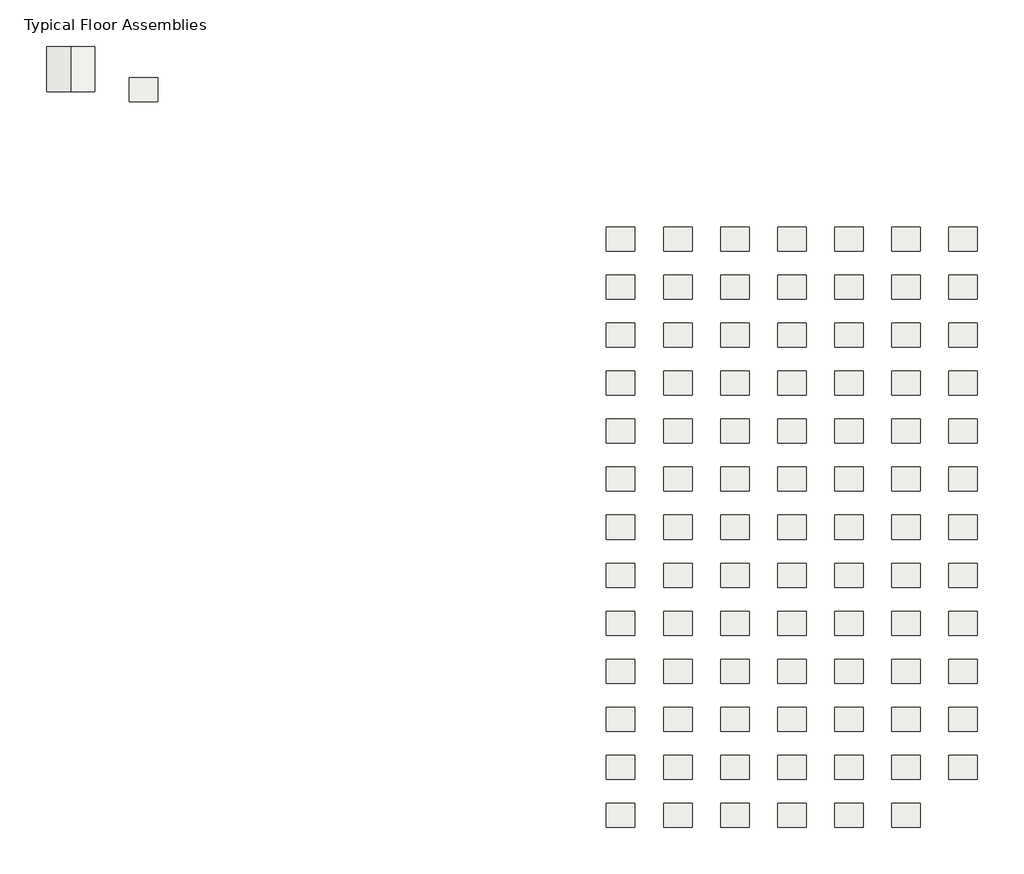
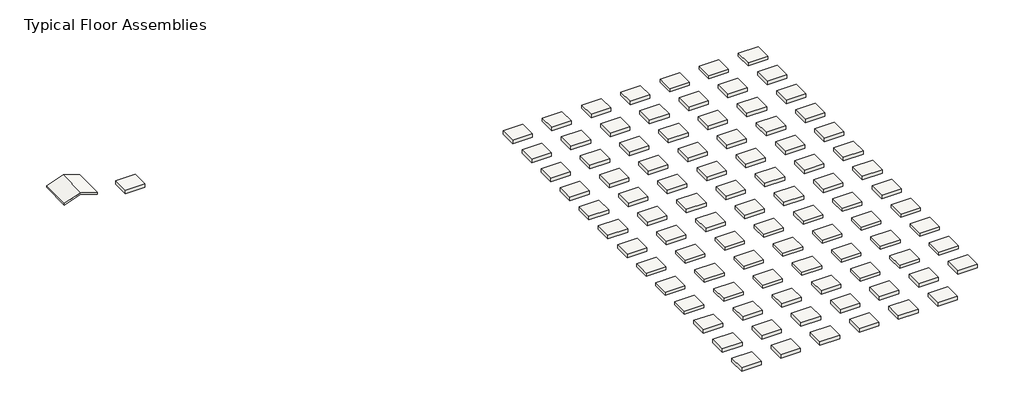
# One storey: 91 slabs, 1 roof.
"""IFC4 building model written with IfcOpenShell, lengths in millimetres."""

from ifc_helpers import new_model, si_unit, frame, origin, place, context, project, spatial, polyline, outline, extrude, element, save

model = new_model("IFC4")

# Units and contexts
model_context = context("Model", 3, world=origin())
ifc_project = project(units=[si_unit("LENGTHUNIT", "METRE", prefix="MILLI")], contexts=[model_context])

# Site, building, storey
site = spatial("IfcSite", under=ifc_project)
building = spatial("IfcBuilding", under=site)
storey = spatial("IfcBuildingStorey", under=building, Name="Typical Floor Assemblies", Elevation=3048.0)

# Roof
placement = place(None, origin())
element("IfcRoof", 1, ObjectType="Base - 5 Layer", at=placement, inside=storey, context=model_context, shape_type="SweptSolid", body=[
    extrude(outline(polyline([(3181.8697543, -46865.5795814), (3588.2697543, -48084.7795814), (3181.8697543, -49303.9795814), (3048.0, -49303.9795814), (3454.4, -48084.7795814), (3048.0, -46865.5795814), (3181.8697543, -46865.5795814)])), frame((0.0, 21413.6483654, 0.0), z_axis=(0.0, 1.0, 0.0), x_axis=(0.0, 0.0, 1.0)), (0.0, 0.0, 1.0), 2286.0),
])

# Slabs
element("IfcSlab", 2, ObjectType="Resysta - Decking_Gold_1inx5.5in_Anthrazit", at=placement, inside=storey, context=model_context, shape_type="SweptSolid", body=[
    extrude(outline(polyline([(-16555.2995286, 14539.4207172), (-16555.2995286, 13320.2207172), (-18003.1080502, 13320.2207172), (-18003.1080502, 14539.4207172), (-16555.2995286, 14539.4207172)])), frame((0.0, 0.0, 2787.6500053), z_axis=(0.0, 0.0, 1.0), x_axis=(1.0, 0.0, 0.0)), (0.0, 0.0, 1.0), 260.3499947),
])
element("IfcSlab", 3, ObjectType="Resysta - Decking_Gold_1inx5.5in_Apple-Green", at=placement, inside=storey, context=model_context, shape_type="SweptSolid", body=[
    extrude(outline(polyline([(-13659.6824853, 14539.4207172), (-13659.6824853, 13320.2207172), (-15107.4910069, 13320.2207172), (-15107.4910069, 14539.4207172), (-13659.6824853, 14539.4207172)])), frame((0.0, 0.0, 2787.6500053), z_axis=(0.0, 0.0, 1.0), x_axis=(1.0, 0.0, 0.0)), (0.0, 0.0, 1.0), 260.3499947),
])
element("IfcSlab", 4, ObjectType="Resysta - Decking_Gold_1inx5.5in_Black", at=placement, inside=storey, context=model_context, shape_type="SweptSolid", body=[
    extrude(outline(polyline([(-10764.065442, 14539.4207172), (-10764.065442, 13320.2207172), (-12211.8739636, 13320.2207172), (-12211.8739636, 14539.4207172), (-10764.065442, 14539.4207172)])), frame((0.0, 0.0, 2787.6500053), z_axis=(0.0, 0.0, 1.0), x_axis=(1.0, 0.0, 0.0)), (0.0, 0.0, 1.0), 260.3499947),
])
element("IfcSlab", 5, ObjectType="Resysta - Decking_Gold_1inx5.5in_Blue", at=placement, inside=storey, context=model_context, shape_type="SweptSolid", body=[
    extrude(outline(polyline([(-7868.4483987, 14539.4207172), (-7868.4483987, 13320.2207172), (-9316.2569203, 13320.2207172), (-9316.2569203, 14539.4207172), (-7868.4483987, 14539.4207172)])), frame((0.0, 0.0, 2787.6500053), z_axis=(0.0, 0.0, 1.0), x_axis=(1.0, 0.0, 0.0)), (0.0, 0.0, 1.0), 260.3499947),
])
element("IfcSlab", 6, ObjectType="Resysta - Decking_Gold_1inx5.5in_Bright-Red", at=placement, inside=storey, context=model_context, shape_type="SweptSolid", body=[
    extrude(outline(polyline([(-4972.8313554, 14539.4207172), (-4972.8313554, 13320.2207172), (-6420.639877, 13320.2207172), (-6420.639877, 14539.4207172), (-4972.8313554, 14539.4207172)])), frame((0.0, 0.0, 2787.6500053), z_axis=(0.0, 0.0, 1.0), x_axis=(1.0, 0.0, 0.0)), (0.0, 0.0, 1.0), 260.3499947),
])
element("IfcSlab", 7, ObjectType="Resysta - Decking_Gold_1inx5.5in_Burma", at=placement, inside=storey, context=model_context, shape_type="SweptSolid", body=[
    extrude(outline(polyline([(-2077.2143121, 14539.4207172), (-2077.2143121, 13320.2207172), (-3525.0228337, 13320.2207172), (-3525.0228337, 14539.4207172), (-2077.2143121, 14539.4207172)])), frame((0.0, 0.0, 2787.6500053), z_axis=(0.0, 0.0, 1.0), x_axis=(1.0, 0.0, 0.0)), (0.0, 0.0, 1.0), 260.3499947),
])
element("IfcSlab", 8, ObjectType="Resysta - Decking_Gold_1inx5.5in_Cape-Cod", at=placement, inside=storey, context=model_context, shape_type="SweptSolid", body=[
    extrude(outline(polyline([(-19450.9165719, 12101.0207172), (-19450.9165719, 10881.8207172), (-20898.7250935, 10881.8207172), (-20898.7250935, 12101.0207172), (-19450.9165719, 12101.0207172)])), frame((0.0, 0.0, 2787.6500053), z_axis=(0.0, 0.0, 1.0), x_axis=(1.0, 0.0, 0.0)), (0.0, 0.0, 1.0), 260.3499947),
])
element("IfcSlab", 9, ObjectType="Resysta - Decking_Gold_1inx5.5in_Concrete-Grey", at=placement, inside=storey, context=model_context, shape_type="SweptSolid", body=[
    extrude(outline(polyline([(-16555.2995286, 12101.0207172), (-16555.2995286, 10881.8207172), (-18003.1080502, 10881.8207172), (-18003.1080502, 12101.0207172), (-16555.2995286, 12101.0207172)])), frame((0.0, 0.0, 2787.6500053), z_axis=(0.0, 0.0, 1.0), x_axis=(1.0, 0.0, 0.0)), (0.0, 0.0, 1.0), 260.3499947),
])
element("IfcSlab", 10, ObjectType="Resysta - Decking_Gold_1inx5.5in_Dark-Burma", at=placement, inside=storey, context=model_context, shape_type="SweptSolid", body=[
    extrude(outline(polyline([(-13659.6824853, 12101.0207172), (-13659.6824853, 10881.8207172), (-15107.4910069, 10881.8207172), (-15107.4910069, 12101.0207172), (-13659.6824853, 12101.0207172)])), frame((0.0, 0.0, 2787.6500053), z_axis=(0.0, 0.0, 1.0), x_axis=(1.0, 0.0, 0.0)), (0.0, 0.0, 1.0), 260.3499947),
])
element("IfcSlab", 11, ObjectType="Resysta - Decking_Gold_1inx5.5in_Dark-Grey", at=placement, inside=storey, context=model_context, shape_type="SweptSolid", body=[
    extrude(outline(polyline([(-10764.065442, 12101.0207172), (-10764.065442, 10881.8207172), (-12211.8739636, 10881.8207172), (-12211.8739636, 12101.0207172), (-10764.065442, 12101.0207172)])), frame((0.0, 0.0, 2787.6500053), z_axis=(0.0, 0.0, 1.0), x_axis=(1.0, 0.0, 0.0)), (0.0, 0.0, 1.0), 260.3499947),
])
element("IfcSlab", 12, ObjectType="Resysta - Decking_Gold_1inx5.5in_Dark-Siam", at=placement, inside=storey, context=model_context, shape_type="SweptSolid", body=[
    extrude(outline(polyline([(-7868.4483987, 12101.0207172), (-7868.4483987, 10881.8207172), (-9316.2569203, 10881.8207172), (-9316.2569203, 12101.0207172), (-7868.4483987, 12101.0207172)])), frame((0.0, 0.0, 2787.6500053), z_axis=(0.0, 0.0, 1.0), x_axis=(1.0, 0.0, 0.0)), (0.0, 0.0, 1.0), 260.3499947),
])
element("IfcSlab", 13, ObjectType="Resysta - Decking_Gold_1inx5.5in_Dark-Taupe", at=placement, inside=storey, context=model_context, shape_type="SweptSolid", body=[
    extrude(outline(polyline([(-4972.8313554, 12101.0207172), (-4972.8313554, 10881.8207172), (-6420.639877, 10881.8207172), (-6420.639877, 12101.0207172), (-4972.8313554, 12101.0207172)])), frame((0.0, 0.0, 2787.6500053), z_axis=(0.0, 0.0, 1.0), x_axis=(1.0, 0.0, 0.0)), (0.0, 0.0, 1.0), 260.3499947),
])
element("IfcSlab", 14, ObjectType="Resysta - Decking_Gold_1inx5.5in_Green/Blue", at=placement, inside=storey, context=model_context, shape_type="SweptSolid", body=[
    extrude(outline(polyline([(-2077.2143121, 12101.0207172), (-2077.2143121, 10881.8207172), (-3525.0228337, 10881.8207172), (-3525.0228337, 12101.0207172), (-2077.2143121, 12101.0207172)])), frame((0.0, 0.0, 2787.6500053), z_axis=(0.0, 0.0, 1.0), x_axis=(1.0, 0.0, 0.0)), (0.0, 0.0, 1.0), 260.3499947),
])
element("IfcSlab", 15, ObjectType="Resysta - Decking_Gold_1inx5.5in_Java-Teak", at=placement, inside=storey, context=model_context, shape_type="SweptSolid", body=[
    extrude(outline(polyline([(-19450.9165719, 9662.6207172), (-19450.9165719, 8443.4207172), (-20898.7250935, 8443.4207172), (-20898.7250935, 9662.6207172), (-19450.9165719, 9662.6207172)])), frame((0.0, 0.0, 2787.6500053), z_axis=(0.0, 0.0, 1.0), x_axis=(1.0, 0.0, 0.0)), (0.0, 0.0, 1.0), 260.3499947),
])
element("IfcSlab", 16, ObjectType="Resysta - Decking_Gold_1inx5.5in_Lavender", at=placement, inside=storey, context=model_context, shape_type="SweptSolid", body=[
    extrude(outline(polyline([(-16555.2995286, 9662.6207172), (-16555.2995286, 8443.4207172), (-18003.1080502, 8443.4207172), (-18003.1080502, 9662.6207172), (-16555.2995286, 9662.6207172)])), frame((0.0, 0.0, 2787.6500053), z_axis=(0.0, 0.0, 1.0), x_axis=(1.0, 0.0, 0.0)), (0.0, 0.0, 1.0), 260.3499947),
])
element("IfcSlab", 17, ObjectType="Resysta - Decking_Gold_1inx5.5in_Light-Taupe", at=placement, inside=storey, context=model_context, shape_type="SweptSolid", body=[
    extrude(outline(polyline([(-13659.6824853, 9662.6207172), (-13659.6824853, 8443.4207172), (-15107.4910069, 8443.4207172), (-15107.4910069, 9662.6207172), (-13659.6824853, 9662.6207172)])), frame((0.0, 0.0, 2787.6500053), z_axis=(0.0, 0.0, 1.0), x_axis=(1.0, 0.0, 0.0)), (0.0, 0.0, 1.0), 260.3499947),
])
element("IfcSlab", 18, ObjectType="Resysta - Decking_Gold_1inx5.5in_Mahogany", at=placement, inside=storey, context=model_context, shape_type="SweptSolid", body=[
    extrude(outline(polyline([(-10764.065442, 9662.6207172), (-10764.065442, 8443.4207172), (-12211.8739636, 8443.4207172), (-12211.8739636, 9662.6207172), (-10764.065442, 9662.6207172)])), frame((0.0, 0.0, 2787.6500053), z_axis=(0.0, 0.0, 1.0), x_axis=(1.0, 0.0, 0.0)), (0.0, 0.0, 1.0), 260.3499947),
])
element("IfcSlab", 19, ObjectType="Resysta - Decking_Gold_1inx5.5in_Moss-Green", at=placement, inside=storey, context=model_context, shape_type="SweptSolid", body=[
    extrude(outline(polyline([(-7868.4483987, 9662.6207172), (-7868.4483987, 8443.4207172), (-9316.2569203, 8443.4207172), (-9316.2569203, 9662.6207172), (-7868.4483987, 9662.6207172)])), frame((0.0, 0.0, 2787.6500053), z_axis=(0.0, 0.0, 1.0), x_axis=(1.0, 0.0, 0.0)), (0.0, 0.0, 1.0), 260.3499947),
])
element("IfcSlab", 20, ObjectType="Resysta - Decking_Gold_1inx5.5in_Mustard-Green", at=placement, inside=storey, context=model_context, shape_type="SweptSolid", body=[
    extrude(outline(polyline([(-4972.8313554, 9662.6207172), (-4972.8313554, 8443.4207172), (-6420.639877, 8443.4207172), (-6420.639877, 9662.6207172), (-4972.8313554, 9662.6207172)])), frame((0.0, 0.0, 2787.6500053), z_axis=(0.0, 0.0, 1.0), x_axis=(1.0, 0.0, 0.0)), (0.0, 0.0, 1.0), 260.3499947),
])
element("IfcSlab", 21, ObjectType="Resysta - Decking_Gold_1inx5.5in_Pale-Golden", at=placement, inside=storey, context=model_context, shape_type="SweptSolid", body=[
    extrude(outline(polyline([(-2077.2143121, 9662.6207172), (-2077.2143121, 8443.4207172), (-3525.0228337, 8443.4207172), (-3525.0228337, 9662.6207172), (-2077.2143121, 9662.6207172)])), frame((0.0, 0.0, 2787.6500053), z_axis=(0.0, 0.0, 1.0), x_axis=(1.0, 0.0, 0.0)), (0.0, 0.0, 1.0), 260.3499947),
])
element("IfcSlab", 22, ObjectType="Resysta - Decking_Gold_1inx5.5in_Palisander", at=placement, inside=storey, context=model_context, shape_type="SweptSolid", body=[
    extrude(outline(polyline([(-19450.9165719, 7224.2207172), (-19450.9165719, 6005.0207172), (-20898.7250935, 6005.0207172), (-20898.7250935, 7224.2207172), (-19450.9165719, 7224.2207172)])), frame((0.0, 0.0, 2787.6500053), z_axis=(0.0, 0.0, 1.0), x_axis=(1.0, 0.0, 0.0)), (0.0, 0.0, 1.0), 260.3499947),
])
element("IfcSlab", 23, ObjectType="Resysta - Decking_Gold_1inx5.5in_Red", at=placement, inside=storey, context=model_context, shape_type="SweptSolid", body=[
    extrude(outline(polyline([(-16555.2995286, 7224.2207172), (-16555.2995286, 6005.0207172), (-18003.1080502, 6005.0207172), (-18003.1080502, 7224.2207172), (-16555.2995286, 7224.2207172)])), frame((0.0, 0.0, 2787.6500053), z_axis=(0.0, 0.0, 1.0), x_axis=(1.0, 0.0, 0.0)), (0.0, 0.0, 1.0), 260.3499947),
])
element("IfcSlab", 24, ObjectType="Resysta - Decking_Gold_1inx5.5in_Rust", at=placement, inside=storey, context=model_context, shape_type="SweptSolid", body=[
    extrude(outline(polyline([(-13659.6824853, 7224.2207172), (-13659.6824853, 6005.0207172), (-15107.4910069, 6005.0207172), (-15107.4910069, 7224.2207172), (-13659.6824853, 7224.2207172)])), frame((0.0, 0.0, 2787.6500053), z_axis=(0.0, 0.0, 1.0), x_axis=(1.0, 0.0, 0.0)), (0.0, 0.0, 1.0), 260.3499947),
])
element("IfcSlab", 25, ObjectType="Resysta - Decking_Gold_1inx5.5in_Sage", at=placement, inside=storey, context=model_context, shape_type="SweptSolid", body=[
    extrude(outline(polyline([(-10764.065442, 7224.2207172), (-10764.065442, 6005.0207172), (-12211.8739636, 6005.0207172), (-12211.8739636, 7224.2207172), (-10764.065442, 7224.2207172)])), frame((0.0, 0.0, 2787.6500053), z_axis=(0.0, 0.0, 1.0), x_axis=(1.0, 0.0, 0.0)), (0.0, 0.0, 1.0), 260.3499947),
])
element("IfcSlab", 26, ObjectType="Resysta - Decking_Gold_1inx5.5in_Siam", at=placement, inside=storey, context=model_context, shape_type="SweptSolid", body=[
    extrude(outline(polyline([(-7868.4483987, 7224.2207172), (-7868.4483987, 6005.0207172), (-9316.2569203, 6005.0207172), (-9316.2569203, 7224.2207172), (-7868.4483987, 7224.2207172)])), frame((0.0, 0.0, 2787.6500053), z_axis=(0.0, 0.0, 1.0), x_axis=(1.0, 0.0, 0.0)), (0.0, 0.0, 1.0), 260.3499947),
])
element("IfcSlab", 27, ObjectType="Resysta - Decking_Gold_1inx5.5in_Teracotta", at=placement, inside=storey, context=model_context, shape_type="SweptSolid", body=[
    extrude(outline(polyline([(-4972.8313554, 7224.2207172), (-4972.8313554, 6005.0207172), (-6420.639877, 6005.0207172), (-6420.639877, 7224.2207172), (-4972.8313554, 7224.2207172)])), frame((0.0, 0.0, 2787.6500053), z_axis=(0.0, 0.0, 1.0), x_axis=(1.0, 0.0, 0.0)), (0.0, 0.0, 1.0), 260.3499947),
])
element("IfcSlab", 28, ObjectType="Resysta - Decking_Gold_1inx5.5in_Walnut", at=placement, inside=storey, context=model_context, shape_type="SweptSolid", body=[
    extrude(outline(polyline([(-2077.2143121, 7224.2207172), (-2077.2143121, 6005.0207172), (-3525.0228337, 6005.0207172), (-3525.0228337, 7224.2207172), (-2077.2143121, 7224.2207172)])), frame((0.0, 0.0, 2787.6500053), z_axis=(0.0, 0.0, 1.0), x_axis=(1.0, 0.0, 0.0)), (0.0, 0.0, 1.0), 260.3499947),
])
element("IfcSlab", 29, ObjectType="Resysta - Decking_Gold_1inx5.5in_White", at=placement, inside=storey, context=model_context, shape_type="SweptSolid", body=[
    extrude(outline(polyline([(-19450.9165719, 4785.8207172), (-19450.9165719, 3566.6207172), (-20898.7250935, 3566.6207172), (-20898.7250935, 4785.8207172), (-19450.9165719, 4785.8207172)])), frame((0.0, 0.0, 2787.6500053), z_axis=(0.0, 0.0, 1.0), x_axis=(1.0, 0.0, 0.0)), (0.0, 0.0, 1.0), 260.3499947),
])
element("IfcSlab", 30, ObjectType="Resysta - Decking_Gold_1inx5.5in_Yellow-Teak", at=placement, inside=storey, context=model_context, shape_type="SweptSolid", body=[
    extrude(outline(polyline([(-16555.2995286, 4785.8207172), (-16555.2995286, 3566.6207172), (-18003.1080502, 3566.6207172), (-18003.1080502, 4785.8207172), (-16555.2995286, 4785.8207172)])), frame((0.0, 0.0, 2787.6500053), z_axis=(0.0, 0.0, 1.0), x_axis=(1.0, 0.0, 0.0)), (0.0, 0.0, 1.0), 260.3499947),
])
element("IfcSlab", 31, ObjectType="Resysta - Decking_Platinum_1inx5.5in_Aged-Teak", at=placement, inside=storey, context=model_context, shape_type="SweptSolid", body=[
    extrude(outline(polyline([(-13659.6824853, 4785.8207172), (-13659.6824853, 3566.6207172), (-15107.4910069, 3566.6207172), (-15107.4910069, 4785.8207172), (-13659.6824853, 4785.8207172)])), frame((0.0, 0.0, 2787.6500053), z_axis=(0.0, 0.0, 1.0), x_axis=(1.0, 0.0, 0.0)), (0.0, 0.0, 1.0), 260.3499947),
])
element("IfcSlab", 32, ObjectType="Resysta - Decking_Platinum_1inx5.5in_Anthrazit", at=placement, inside=storey, context=model_context, shape_type="SweptSolid", body=[
    extrude(outline(polyline([(-10764.065442, 4785.8207172), (-10764.065442, 3566.6207172), (-12211.8739636, 3566.6207172), (-12211.8739636, 4785.8207172), (-10764.065442, 4785.8207172)])), frame((0.0, 0.0, 2787.6500053), z_axis=(0.0, 0.0, 1.0), x_axis=(1.0, 0.0, 0.0)), (0.0, 0.0, 1.0), 260.3499947),
])
element("IfcSlab", 33, ObjectType="Resysta - Decking_Platinum_1inx5.5in_Apple-Green", at=placement, inside=storey, context=model_context, shape_type="SweptSolid", body=[
    extrude(outline(polyline([(-7868.4483987, 4785.8207172), (-7868.4483987, 3566.6207172), (-9316.2569203, 3566.6207172), (-9316.2569203, 4785.8207172), (-7868.4483987, 4785.8207172)])), frame((0.0, 0.0, 2787.6500053), z_axis=(0.0, 0.0, 1.0), x_axis=(1.0, 0.0, 0.0)), (0.0, 0.0, 1.0), 260.3499947),
])
element("IfcSlab", 34, ObjectType="Resysta - Decking_Platinum_1inx5.5in_Black", at=placement, inside=storey, context=model_context, shape_type="SweptSolid", body=[
    extrude(outline(polyline([(-4972.8313554, 4785.8207172), (-4972.8313554, 3566.6207172), (-6420.639877, 3566.6207172), (-6420.639877, 4785.8207172), (-4972.8313554, 4785.8207172)])), frame((0.0, 0.0, 2787.6500053), z_axis=(0.0, 0.0, 1.0), x_axis=(1.0, 0.0, 0.0)), (0.0, 0.0, 1.0), 260.3499947),
])
element("IfcSlab", 35, ObjectType="Resysta - Decking_Platinum_1inx5.5in_Blue", at=placement, inside=storey, context=model_context, shape_type="SweptSolid", body=[
    extrude(outline(polyline([(-2077.2143121, 4785.8207172), (-2077.2143121, 3566.6207172), (-3525.0228337, 3566.6207172), (-3525.0228337, 4785.8207172), (-2077.2143121, 4785.8207172)])), frame((0.0, 0.0, 2787.6500053), z_axis=(0.0, 0.0, 1.0), x_axis=(1.0, 0.0, 0.0)), (0.0, 0.0, 1.0), 260.3499947),
])
element("IfcSlab", 36, ObjectType="Resysta - Decking_Platinum_1inx5.5in_Bright-Red", at=placement, inside=storey, context=model_context, shape_type="SweptSolid", body=[
    extrude(outline(polyline([(-19450.9165719, 2347.4207172), (-19450.9165719, 1128.2207172), (-20898.7250935, 1128.2207172), (-20898.7250935, 2347.4207172), (-19450.9165719, 2347.4207172)])), frame((0.0, 0.0, 2787.6500053), z_axis=(0.0, 0.0, 1.0), x_axis=(1.0, 0.0, 0.0)), (0.0, 0.0, 1.0), 260.3499947),
])
element("IfcSlab", 37, ObjectType="Resysta - Decking_Platinum_1inx5.5in_Burma", at=placement, inside=storey, context=model_context, shape_type="SweptSolid", body=[
    extrude(outline(polyline([(-16555.2995286, 2347.4207172), (-16555.2995286, 1128.2207172), (-18003.1080502, 1128.2207172), (-18003.1080502, 2347.4207172), (-16555.2995286, 2347.4207172)])), frame((0.0, 0.0, 2787.6500053), z_axis=(0.0, 0.0, 1.0), x_axis=(1.0, 0.0, 0.0)), (0.0, 0.0, 1.0), 260.3499947),
])
element("IfcSlab", 38, ObjectType="Resysta - Decking_Platinum_1inx5.5in_Cape-Cod", at=placement, inside=storey, context=model_context, shape_type="SweptSolid", body=[
    extrude(outline(polyline([(-13659.6824853, 2347.4207172), (-13659.6824853, 1128.2207172), (-15107.4910069, 1128.2207172), (-15107.4910069, 2347.4207172), (-13659.6824853, 2347.4207172)])), frame((0.0, 0.0, 2787.6500053), z_axis=(0.0, 0.0, 1.0), x_axis=(1.0, 0.0, 0.0)), (0.0, 0.0, 1.0), 260.3499947),
])
element("IfcSlab", 39, ObjectType="Resysta - Decking_Platinum_1inx5.5in_Concrete-Grey", at=placement, inside=storey, context=model_context, shape_type="SweptSolid", body=[
    extrude(outline(polyline([(-10764.065442, 2347.4207172), (-10764.065442, 1128.2207172), (-12211.8739636, 1128.2207172), (-12211.8739636, 2347.4207172), (-10764.065442, 2347.4207172)])), frame((0.0, 0.0, 2787.6500053), z_axis=(0.0, 0.0, 1.0), x_axis=(1.0, 0.0, 0.0)), (0.0, 0.0, 1.0), 260.3499947),
])
element("IfcSlab", 40, ObjectType="Resysta - Decking_Platinum_1inx5.5in_Dark-Burma", at=placement, inside=storey, context=model_context, shape_type="SweptSolid", body=[
    extrude(outline(polyline([(-7868.4483987, 2347.4207172), (-7868.4483987, 1128.2207172), (-9316.2569203, 1128.2207172), (-9316.2569203, 2347.4207172), (-7868.4483987, 2347.4207172)])), frame((0.0, 0.0, 2787.6500053), z_axis=(0.0, 0.0, 1.0), x_axis=(1.0, 0.0, 0.0)), (0.0, 0.0, 1.0), 260.3499947),
])
element("IfcSlab", 41, ObjectType="Resysta - Decking_Platinum_1inx5.5in_Dark-Grey", at=placement, inside=storey, context=model_context, shape_type="SweptSolid", body=[
    extrude(outline(polyline([(-4972.8313554, 2347.4207172), (-4972.8313554, 1128.2207172), (-6420.639877, 1128.2207172), (-6420.639877, 2347.4207172), (-4972.8313554, 2347.4207172)])), frame((0.0, 0.0, 2787.6500053), z_axis=(0.0, 0.0, 1.0), x_axis=(1.0, 0.0, 0.0)), (0.0, 0.0, 1.0), 260.3499947),
])
element("IfcSlab", 42, ObjectType="Resysta - Decking_Platinum_1inx5.5in_Dark-Siam", at=placement, inside=storey, context=model_context, shape_type="SweptSolid", body=[
    extrude(outline(polyline([(-2077.2143121, 2347.4207172), (-2077.2143121, 1128.2207172), (-3525.0228337, 1128.2207172), (-3525.0228337, 2347.4207172), (-2077.2143121, 2347.4207172)])), frame((0.0, 0.0, 2787.6500053), z_axis=(0.0, 0.0, 1.0), x_axis=(1.0, 0.0, 0.0)), (0.0, 0.0, 1.0), 260.3499947),
])
element("IfcSlab", 43, ObjectType="Resysta - Decking_Platinum_1inx5.5in_Dark-Taupe", at=placement, inside=storey, context=model_context, shape_type="SweptSolid", body=[
    extrude(outline(polyline([(-19450.9165719, -90.9792828), (-19450.9165719, -1310.1792828), (-20898.7250935, -1310.1792828), (-20898.7250935, -90.9792828), (-19450.9165719, -90.9792828)])), frame((0.0, 0.0, 2787.6500053), z_axis=(0.0, 0.0, 1.0), x_axis=(1.0, 0.0, 0.0)), (0.0, 0.0, 1.0), 260.3499947),
])
element("IfcSlab", 44, ObjectType="Resysta - Decking_Platinum_1inx5.5in_Green/Blue", at=placement, inside=storey, context=model_context, shape_type="SweptSolid", body=[
    extrude(outline(polyline([(-16555.2995286, -90.9792828), (-16555.2995286, -1310.1792828), (-18003.1080502, -1310.1792828), (-18003.1080502, -90.9792828), (-16555.2995286, -90.9792828)])), frame((0.0, 0.0, 2787.6500053), z_axis=(0.0, 0.0, 1.0), x_axis=(1.0, 0.0, 0.0)), (0.0, 0.0, 1.0), 260.3499947),
])
element("IfcSlab", 45, ObjectType="Resysta - Decking_Platinum_1inx5.5in_Java-Teak", at=placement, inside=storey, context=model_context, shape_type="SweptSolid", body=[
    extrude(outline(polyline([(-13659.6824853, -90.9792828), (-13659.6824853, -1310.1792828), (-15107.4910069, -1310.1792828), (-15107.4910069, -90.9792828), (-13659.6824853, -90.9792828)])), frame((0.0, 0.0, 2787.6500053), z_axis=(0.0, 0.0, 1.0), x_axis=(1.0, 0.0, 0.0)), (0.0, 0.0, 1.0), 260.3499947),
])
element("IfcSlab", 46, ObjectType="Resysta - Decking_Platinum_1inx5.5in_Lavender", at=placement, inside=storey, context=model_context, shape_type="SweptSolid", body=[
    extrude(outline(polyline([(-10764.065442, -90.9792828), (-10764.065442, -1310.1792828), (-12211.8739636, -1310.1792828), (-12211.8739636, -90.9792828), (-10764.065442, -90.9792828)])), frame((0.0, 0.0, 2787.6500053), z_axis=(0.0, 0.0, 1.0), x_axis=(1.0, 0.0, 0.0)), (0.0, 0.0, 1.0), 260.3499947),
])
element("IfcSlab", 47, ObjectType="Resysta - Decking_Platinum_1inx5.5in_Light-Taupe", at=placement, inside=storey, context=model_context, shape_type="SweptSolid", body=[
    extrude(outline(polyline([(-7868.4483987, -90.9792828), (-7868.4483987, -1310.1792828), (-9316.2569203, -1310.1792828), (-9316.2569203, -90.9792828), (-7868.4483987, -90.9792828)])), frame((0.0, 0.0, 2787.6500053), z_axis=(0.0, 0.0, 1.0), x_axis=(1.0, 0.0, 0.0)), (0.0, 0.0, 1.0), 260.3499947),
])
element("IfcSlab", 48, ObjectType="Resysta - Decking_Platinum_1inx5.5in_Mahogany", at=placement, inside=storey, context=model_context, shape_type="SweptSolid", body=[
    extrude(outline(polyline([(-4972.8313554, -90.9792828), (-4972.8313554, -1310.1792828), (-6420.639877, -1310.1792828), (-6420.639877, -90.9792828), (-4972.8313554, -90.9792828)])), frame((0.0, 0.0, 2787.6500053), z_axis=(0.0, 0.0, 1.0), x_axis=(1.0, 0.0, 0.0)), (0.0, 0.0, 1.0), 260.3499947),
])
element("IfcSlab", 49, ObjectType="Resysta - Decking_Platinum_1inx5.5in_Moss-Green", at=placement, inside=storey, context=model_context, shape_type="SweptSolid", body=[
    extrude(outline(polyline([(-2077.2143121, -90.9792828), (-2077.2143121, -1310.1792828), (-3525.0228337, -1310.1792828), (-3525.0228337, -90.9792828), (-2077.2143121, -90.9792828)])), frame((0.0, 0.0, 2787.6500053), z_axis=(0.0, 0.0, 1.0), x_axis=(1.0, 0.0, 0.0)), (0.0, 0.0, 1.0), 260.3499947),
])
element("IfcSlab", 50, ObjectType="Resysta - Decking_Platinum_1inx5.5in_Mustard-Green", at=placement, inside=storey, context=model_context, shape_type="SweptSolid", body=[
    extrude(outline(polyline([(-19450.9165719, -2529.3792828), (-19450.9165719, -3748.5792828), (-20898.7250935, -3748.5792828), (-20898.7250935, -2529.3792828), (-19450.9165719, -2529.3792828)])), frame((0.0, 0.0, 2787.6500053), z_axis=(0.0, 0.0, 1.0), x_axis=(1.0, 0.0, 0.0)), (0.0, 0.0, 1.0), 260.3499947),
])
element("IfcSlab", 51, ObjectType="Resysta - Decking_Platinum_1inx5.5in_Pale-Golden", at=placement, inside=storey, context=model_context, shape_type="SweptSolid", body=[
    extrude(outline(polyline([(-16555.2995286, -2529.3792828), (-16555.2995286, -3748.5792828), (-18003.1080502, -3748.5792828), (-18003.1080502, -2529.3792828), (-16555.2995286, -2529.3792828)])), frame((0.0, 0.0, 2787.6500053), z_axis=(0.0, 0.0, 1.0), x_axis=(1.0, 0.0, 0.0)), (0.0, 0.0, 1.0), 260.3499947),
])
element("IfcSlab", 52, ObjectType="Resysta - Decking_Platinum_1inx5.5in_Palisander", at=placement, inside=storey, context=model_context, shape_type="SweptSolid", body=[
    extrude(outline(polyline([(-13659.6824853, -2529.3792828), (-13659.6824853, -3748.5792828), (-15107.4910069, -3748.5792828), (-15107.4910069, -2529.3792828), (-13659.6824853, -2529.3792828)])), frame((0.0, 0.0, 2787.6500053), z_axis=(0.0, 0.0, 1.0), x_axis=(1.0, 0.0, 0.0)), (0.0, 0.0, 1.0), 260.3499947),
])
element("IfcSlab", 53, ObjectType="Resysta - Decking_Platinum_1inx5.5in_Red", at=placement, inside=storey, context=model_context, shape_type="SweptSolid", body=[
    extrude(outline(polyline([(-10764.065442, -2529.3792828), (-10764.065442, -3748.5792828), (-12211.8739636, -3748.5792828), (-12211.8739636, -2529.3792828), (-10764.065442, -2529.3792828)])), frame((0.0, 0.0, 2787.6500053), z_axis=(0.0, 0.0, 1.0), x_axis=(1.0, 0.0, 0.0)), (0.0, 0.0, 1.0), 260.3499947),
])
element("IfcSlab", 54, ObjectType="Resysta - Decking_Platinum_1inx5.5in_Rust", at=placement, inside=storey, context=model_context, shape_type="SweptSolid", body=[
    extrude(outline(polyline([(-7868.4483987, -2529.3792828), (-7868.4483987, -3748.5792828), (-9316.2569203, -3748.5792828), (-9316.2569203, -2529.3792828), (-7868.4483987, -2529.3792828)])), frame((0.0, 0.0, 2787.6500053), z_axis=(0.0, 0.0, 1.0), x_axis=(1.0, 0.0, 0.0)), (0.0, 0.0, 1.0), 260.3499947),
])
element("IfcSlab", 55, ObjectType="Resysta - Decking_Platinum_1inx5.5in_Sage", at=placement, inside=storey, context=model_context, shape_type="SweptSolid", body=[
    extrude(outline(polyline([(-4972.8313554, -2529.3792828), (-4972.8313554, -3748.5792828), (-6420.639877, -3748.5792828), (-6420.639877, -2529.3792828), (-4972.8313554, -2529.3792828)])), frame((0.0, 0.0, 2787.6500053), z_axis=(0.0, 0.0, 1.0), x_axis=(1.0, 0.0, 0.0)), (0.0, 0.0, 1.0), 260.3499947),
])
element("IfcSlab", 56, ObjectType="Resysta - Decking_Platinum_1inx5.5in_Siam", at=placement, inside=storey, context=model_context, shape_type="SweptSolid", body=[
    extrude(outline(polyline([(-2077.2143121, -2529.3792828), (-2077.2143121, -3748.5792828), (-3525.0228337, -3748.5792828), (-3525.0228337, -2529.3792828), (-2077.2143121, -2529.3792828)])), frame((0.0, 0.0, 2787.6500053), z_axis=(0.0, 0.0, 1.0), x_axis=(1.0, 0.0, 0.0)), (0.0, 0.0, 1.0), 260.3499947),
])
element("IfcSlab", 57, ObjectType="Resysta - Decking_Platinum_1inx5.5in_Teracotta", at=placement, inside=storey, context=model_context, shape_type="SweptSolid", body=[
    extrude(outline(polyline([(-19450.9165719, -4967.7792828), (-19450.9165719, -6186.9792828), (-20898.7250935, -6186.9792828), (-20898.7250935, -4967.7792828), (-19450.9165719, -4967.7792828)])), frame((0.0, 0.0, 2787.6500053), z_axis=(0.0, 0.0, 1.0), x_axis=(1.0, 0.0, 0.0)), (0.0, 0.0, 1.0), 260.3499947),
])
element("IfcSlab", 58, ObjectType="Resysta - Decking_Platinum_1inx5.5in_Walnut", at=placement, inside=storey, context=model_context, shape_type="SweptSolid", body=[
    extrude(outline(polyline([(-16555.2995286, -4967.7792828), (-16555.2995286, -6186.9792828), (-18003.1080502, -6186.9792828), (-18003.1080502, -4967.7792828), (-16555.2995286, -4967.7792828)])), frame((0.0, 0.0, 2787.6500053), z_axis=(0.0, 0.0, 1.0), x_axis=(1.0, 0.0, 0.0)), (0.0, 0.0, 1.0), 260.3499947),
])
element("IfcSlab", 59, ObjectType="Resysta - Decking_Platinum_1inx5.5in_White", at=placement, inside=storey, context=model_context, shape_type="SweptSolid", body=[
    extrude(outline(polyline([(-13659.6824853, -4967.7792828), (-13659.6824853, -6186.9792828), (-15107.4910069, -6186.9792828), (-15107.4910069, -4967.7792828), (-13659.6824853, -4967.7792828)])), frame((0.0, 0.0, 2787.6500053), z_axis=(0.0, 0.0, 1.0), x_axis=(1.0, 0.0, 0.0)), (0.0, 0.0, 1.0), 260.3499947),
])
element("IfcSlab", 60, ObjectType="Resysta - Decking_Platinum_1inx5.5in_Yellow-Teak", at=placement, inside=storey, context=model_context, shape_type="SweptSolid", body=[
    extrude(outline(polyline([(-10764.065442, -4967.7792828), (-10764.065442, -6186.9792828), (-12211.8739636, -6186.9792828), (-12211.8739636, -4967.7792828), (-10764.065442, -4967.7792828)])), frame((0.0, 0.0, 2787.6500053), z_axis=(0.0, 0.0, 1.0), x_axis=(1.0, 0.0, 0.0)), (0.0, 0.0, 1.0), 260.3499947),
])
element("IfcSlab", 61, ObjectType="Resysta - Decking_Platinum_1inx7.5in_Aged-Teak", at=placement, inside=storey, context=model_context, shape_type="SweptSolid", body=[
    extrude(outline(polyline([(-7868.4483987, -4967.7792828), (-7868.4483987, -6186.9792828), (-9316.2569203, -6186.9792828), (-9316.2569203, -4967.7792828), (-7868.4483987, -4967.7792828)])), frame((0.0, 0.0, 2787.6500053), z_axis=(0.0, 0.0, 1.0), x_axis=(1.0, 0.0, 0.0)), (0.0, 0.0, 1.0), 260.3499947),
])
element("IfcSlab", 62, ObjectType="Resysta - Decking_Platinum_1inx7.5in_Anthrazit", at=placement, inside=storey, context=model_context, shape_type="SweptSolid", body=[
    extrude(outline(polyline([(-4972.8313554, -4967.7792828), (-4972.8313554, -6186.9792828), (-6420.639877, -6186.9792828), (-6420.639877, -4967.7792828), (-4972.8313554, -4967.7792828)])), frame((0.0, 0.0, 2787.6500053), z_axis=(0.0, 0.0, 1.0), x_axis=(1.0, 0.0, 0.0)), (0.0, 0.0, 1.0), 260.3499947),
])
element("IfcSlab", 63, ObjectType="Resysta - Decking_Platinum_1inx7.5in_Apple-Green", at=placement, inside=storey, context=model_context, shape_type="SweptSolid", body=[
    extrude(outline(polyline([(-2077.2143121, -4967.7792828), (-2077.2143121, -6186.9792828), (-3525.0228337, -6186.9792828), (-3525.0228337, -4967.7792828), (-2077.2143121, -4967.7792828)])), frame((0.0, 0.0, 2787.6500053), z_axis=(0.0, 0.0, 1.0), x_axis=(1.0, 0.0, 0.0)), (0.0, 0.0, 1.0), 260.3499947),
])
element("IfcSlab", 64, ObjectType="Resysta - Decking_Platinum_1inx7.5in_Black", at=placement, inside=storey, context=model_context, shape_type="SweptSolid", body=[
    extrude(outline(polyline([(-19450.9165719, -7406.1792828), (-19450.9165719, -8625.3792828), (-20898.7250935, -8625.3792828), (-20898.7250935, -7406.1792828), (-19450.9165719, -7406.1792828)])), frame((0.0, 0.0, 2787.6500053), z_axis=(0.0, 0.0, 1.0), x_axis=(1.0, 0.0, 0.0)), (0.0, 0.0, 1.0), 260.3499947),
])
element("IfcSlab", 65, ObjectType="Resysta - Decking_Platinum_1inx7.5in_Blue", at=placement, inside=storey, context=model_context, shape_type="SweptSolid", body=[
    extrude(outline(polyline([(-16555.2995286, -7406.1792828), (-16555.2995286, -8625.3792828), (-18003.1080502, -8625.3792828), (-18003.1080502, -7406.1792828), (-16555.2995286, -7406.1792828)])), frame((0.0, 0.0, 2787.6500053), z_axis=(0.0, 0.0, 1.0), x_axis=(1.0, 0.0, 0.0)), (0.0, 0.0, 1.0), 260.3499947),
])
element("IfcSlab", 66, ObjectType="Resysta - Decking_Platinum_1inx7.5in_Bright-Red", at=placement, inside=storey, context=model_context, shape_type="SweptSolid", body=[
    extrude(outline(polyline([(-13659.6824853, -7406.1792828), (-13659.6824853, -8625.3792828), (-15107.4910069, -8625.3792828), (-15107.4910069, -7406.1792828), (-13659.6824853, -7406.1792828)])), frame((0.0, 0.0, 2787.6500053), z_axis=(0.0, 0.0, 1.0), x_axis=(1.0, 0.0, 0.0)), (0.0, 0.0, 1.0), 260.3499947),
])
element("IfcSlab", 67, ObjectType="Resysta - Decking_Platinum_1inx7.5in_Burma", at=placement, inside=storey, context=model_context, shape_type="SweptSolid", body=[
    extrude(outline(polyline([(-10764.065442, -7406.1792828), (-10764.065442, -8625.3792828), (-12211.8739636, -8625.3792828), (-12211.8739636, -7406.1792828), (-10764.065442, -7406.1792828)])), frame((0.0, 0.0, 2787.6500053), z_axis=(0.0, 0.0, 1.0), x_axis=(1.0, 0.0, 0.0)), (0.0, 0.0, 1.0), 260.3499947),
])
element("IfcSlab", 68, ObjectType="Resysta - Decking_Platinum_1inx7.5in_Cape-Cod", at=placement, inside=storey, context=model_context, shape_type="SweptSolid", body=[
    extrude(outline(polyline([(-7868.4483987, -7406.1792828), (-7868.4483987, -8625.3792828), (-9316.2569203, -8625.3792828), (-9316.2569203, -7406.1792828), (-7868.4483987, -7406.1792828)])), frame((0.0, 0.0, 2787.6500053), z_axis=(0.0, 0.0, 1.0), x_axis=(1.0, 0.0, 0.0)), (0.0, 0.0, 1.0), 260.3499947),
])
element("IfcSlab", 69, ObjectType="Resysta - Decking_Platinum_1inx7.5in_Concrete-Grey", at=placement, inside=storey, context=model_context, shape_type="SweptSolid", body=[
    extrude(outline(polyline([(-4972.8313554, -7406.1792828), (-4972.8313554, -8625.3792828), (-6420.639877, -8625.3792828), (-6420.639877, -7406.1792828), (-4972.8313554, -7406.1792828)])), frame((0.0, 0.0, 2787.6500053), z_axis=(0.0, 0.0, 1.0), x_axis=(1.0, 0.0, 0.0)), (0.0, 0.0, 1.0), 260.3499947),
])
element("IfcSlab", 70, ObjectType="Resysta - Decking_Platinum_1inx7.5in_Dark-Burma", at=placement, inside=storey, context=model_context, shape_type="SweptSolid", body=[
    extrude(outline(polyline([(-2077.2143121, -7406.1792828), (-2077.2143121, -8625.3792828), (-3525.0228337, -8625.3792828), (-3525.0228337, -7406.1792828), (-2077.2143121, -7406.1792828)])), frame((0.0, 0.0, 2787.6500053), z_axis=(0.0, 0.0, 1.0), x_axis=(1.0, 0.0, 0.0)), (0.0, 0.0, 1.0), 260.3499947),
])
element("IfcSlab", 71, ObjectType="Resysta - Decking_Platinum_1inx7.5in_Dark-Grey", at=placement, inside=storey, context=model_context, shape_type="SweptSolid", body=[
    extrude(outline(polyline([(-19450.9165719, -9844.5792828), (-19450.9165719, -11063.7792828), (-20898.7250935, -11063.7792828), (-20898.7250935, -9844.5792828), (-19450.9165719, -9844.5792828)])), frame((0.0, 0.0, 2787.6500053), z_axis=(0.0, 0.0, 1.0), x_axis=(1.0, 0.0, 0.0)), (0.0, 0.0, 1.0), 260.3499947),
])
element("IfcSlab", 72, ObjectType="Resysta - Decking_Platinum_1inx7.5in_Dark-Siam", at=placement, inside=storey, context=model_context, shape_type="SweptSolid", body=[
    extrude(outline(polyline([(-16555.2995286, -9844.5792828), (-16555.2995286, -11063.7792828), (-18003.1080502, -11063.7792828), (-18003.1080502, -9844.5792828), (-16555.2995286, -9844.5792828)])), frame((0.0, 0.0, 2787.6500053), z_axis=(0.0, 0.0, 1.0), x_axis=(1.0, 0.0, 0.0)), (0.0, 0.0, 1.0), 260.3499947),
])
element("IfcSlab", 73, ObjectType="Resysta - Decking_Platinum_1inx7.5in_Dark-Taupe", at=placement, inside=storey, context=model_context, shape_type="SweptSolid", body=[
    extrude(outline(polyline([(-13659.6824853, -9844.5792828), (-13659.6824853, -11063.7792828), (-15107.4910069, -11063.7792828), (-15107.4910069, -9844.5792828), (-13659.6824853, -9844.5792828)])), frame((0.0, 0.0, 2787.6500053), z_axis=(0.0, 0.0, 1.0), x_axis=(1.0, 0.0, 0.0)), (0.0, 0.0, 1.0), 260.3499947),
])
element("IfcSlab", 74, ObjectType="Resysta - Decking_Platinum_1inx7.5in_Green/Blue", at=placement, inside=storey, context=model_context, shape_type="SweptSolid", body=[
    extrude(outline(polyline([(-10764.065442, -9844.5792828), (-10764.065442, -11063.7792828), (-12211.8739636, -11063.7792828), (-12211.8739636, -9844.5792828), (-10764.065442, -9844.5792828)])), frame((0.0, 0.0, 2787.6500053), z_axis=(0.0, 0.0, 1.0), x_axis=(1.0, 0.0, 0.0)), (0.0, 0.0, 1.0), 260.3499947),
])
element("IfcSlab", 75, ObjectType="Resysta - Decking_Platinum_1inx7.5in_Java-Teak", at=placement, inside=storey, context=model_context, shape_type="SweptSolid", body=[
    extrude(outline(polyline([(-7868.4483987, -9844.5792828), (-7868.4483987, -11063.7792828), (-9316.2569203, -11063.7792828), (-9316.2569203, -9844.5792828), (-7868.4483987, -9844.5792828)])), frame((0.0, 0.0, 2787.6500053), z_axis=(0.0, 0.0, 1.0), x_axis=(1.0, 0.0, 0.0)), (0.0, 0.0, 1.0), 260.3499947),
])
element("IfcSlab", 76, ObjectType="Resysta - Decking_Platinum_1inx7.5in_Lavender", at=placement, inside=storey, context=model_context, shape_type="SweptSolid", body=[
    extrude(outline(polyline([(-4972.8313554, -9844.5792828), (-4972.8313554, -11063.7792828), (-6420.639877, -11063.7792828), (-6420.639877, -9844.5792828), (-4972.8313554, -9844.5792828)])), frame((0.0, 0.0, 2787.6500053), z_axis=(0.0, 0.0, 1.0), x_axis=(1.0, 0.0, 0.0)), (0.0, 0.0, 1.0), 260.3499947),
])
element("IfcSlab", 77, ObjectType="Resysta - Decking_Platinum_1inx7.5in_Light-Taupe", at=placement, inside=storey, context=model_context, shape_type="SweptSolid", body=[
    extrude(outline(polyline([(-2077.2143121, -9844.5792828), (-2077.2143121, -11063.7792828), (-3525.0228337, -11063.7792828), (-3525.0228337, -9844.5792828), (-2077.2143121, -9844.5792828)])), frame((0.0, 0.0, 2787.6500053), z_axis=(0.0, 0.0, 1.0), x_axis=(1.0, 0.0, 0.0)), (0.0, 0.0, 1.0), 260.3499947),
])
element("IfcSlab", 78, ObjectType="Resysta - Decking_Platinum_1inx7.5in_Mahogany", at=placement, inside=storey, context=model_context, shape_type="SweptSolid", body=[
    extrude(outline(polyline([(-19450.9165719, -12282.9792828), (-19450.9165719, -13502.1792828), (-20898.7250935, -13502.1792828), (-20898.7250935, -12282.9792828), (-19450.9165719, -12282.9792828)])), frame((0.0, 0.0, 2787.6500053), z_axis=(0.0, 0.0, 1.0), x_axis=(1.0, 0.0, 0.0)), (0.0, 0.0, 1.0), 260.3499947),
])
element("IfcSlab", 79, ObjectType="Resysta - Decking_Platinum_1inx7.5in_Moss-Green", at=placement, inside=storey, context=model_context, shape_type="SweptSolid", body=[
    extrude(outline(polyline([(-16555.2995286, -12282.9792828), (-16555.2995286, -13502.1792828), (-18003.1080502, -13502.1792828), (-18003.1080502, -12282.9792828), (-16555.2995286, -12282.9792828)])), frame((0.0, 0.0, 2787.6500053), z_axis=(0.0, 0.0, 1.0), x_axis=(1.0, 0.0, 0.0)), (0.0, 0.0, 1.0), 260.3499947),
])
element("IfcSlab", 80, ObjectType="Resysta - Decking_Platinum_1inx7.5in_Mustard-Green", at=placement, inside=storey, context=model_context, shape_type="SweptSolid", body=[
    extrude(outline(polyline([(-13659.6824853, -12282.9792828), (-13659.6824853, -13502.1792828), (-15107.4910069, -13502.1792828), (-15107.4910069, -12282.9792828), (-13659.6824853, -12282.9792828)])), frame((0.0, 0.0, 2787.6500053), z_axis=(0.0, 0.0, 1.0), x_axis=(1.0, 0.0, 0.0)), (0.0, 0.0, 1.0), 260.3499947),
])
element("IfcSlab", 81, ObjectType="Resysta - Decking_Platinum_1inx7.5in_Pale-Golden", at=placement, inside=storey, context=model_context, shape_type="SweptSolid", body=[
    extrude(outline(polyline([(-10764.065442, -12282.9792828), (-10764.065442, -13502.1792828), (-12211.8739636, -13502.1792828), (-12211.8739636, -12282.9792828), (-10764.065442, -12282.9792828)])), frame((0.0, 0.0, 2787.6500053), z_axis=(0.0, 0.0, 1.0), x_axis=(1.0, 0.0, 0.0)), (0.0, 0.0, 1.0), 260.3499947),
])
element("IfcSlab", 82, ObjectType="Resysta - Decking_Platinum_1inx7.5in_Palisander", at=placement, inside=storey, context=model_context, shape_type="SweptSolid", body=[
    extrude(outline(polyline([(-7868.4483987, -12282.9792828), (-7868.4483987, -13502.1792828), (-9316.2569203, -13502.1792828), (-9316.2569203, -12282.9792828), (-7868.4483987, -12282.9792828)])), frame((0.0, 0.0, 2787.6500053), z_axis=(0.0, 0.0, 1.0), x_axis=(1.0, 0.0, 0.0)), (0.0, 0.0, 1.0), 260.3499947),
])
element("IfcSlab", 83, ObjectType="Resysta - Decking_Platinum_1inx7.5in_Red", at=placement, inside=storey, context=model_context, shape_type="SweptSolid", body=[
    extrude(outline(polyline([(-4972.8313554, -12282.9792828), (-4972.8313554, -13502.1792828), (-6420.639877, -13502.1792828), (-6420.639877, -12282.9792828), (-4972.8313554, -12282.9792828)])), frame((0.0, 0.0, 2787.6500053), z_axis=(0.0, 0.0, 1.0), x_axis=(1.0, 0.0, 0.0)), (0.0, 0.0, 1.0), 260.3499947),
])
element("IfcSlab", 84, ObjectType="Resysta - Decking_Platinum_1inx7.5in_Rust", at=placement, inside=storey, context=model_context, shape_type="SweptSolid", body=[
    extrude(outline(polyline([(-2077.2143121, -12282.9792828), (-2077.2143121, -13502.1792828), (-3525.0228337, -13502.1792828), (-3525.0228337, -12282.9792828), (-2077.2143121, -12282.9792828)])), frame((0.0, 0.0, 2787.6500053), z_axis=(0.0, 0.0, 1.0), x_axis=(1.0, 0.0, 0.0)), (0.0, 0.0, 1.0), 260.3499947),
])
element("IfcSlab", 85, ObjectType="Resysta - Decking_Platinum_1inx7.5in_Sage", at=placement, inside=storey, context=model_context, shape_type="SweptSolid", body=[
    extrude(outline(polyline([(-19450.9165719, -14721.3792828), (-19450.9165719, -15940.5792828), (-20898.7250935, -15940.5792828), (-20898.7250935, -14721.3792828), (-19450.9165719, -14721.3792828)])), frame((0.0, 0.0, 2787.6500053), z_axis=(0.0, 0.0, 1.0), x_axis=(1.0, 0.0, 0.0)), (0.0, 0.0, 1.0), 260.3499947),
])
element("IfcSlab", 86, ObjectType="Resysta - Decking_Platinum_1inx7.5in_Siam", at=placement, inside=storey, context=model_context, shape_type="SweptSolid", body=[
    extrude(outline(polyline([(-16555.2995286, -14721.3792828), (-16555.2995286, -15940.5792828), (-18003.1080502, -15940.5792828), (-18003.1080502, -14721.3792828), (-16555.2995286, -14721.3792828)])), frame((0.0, 0.0, 2787.6500053), z_axis=(0.0, 0.0, 1.0), x_axis=(1.0, 0.0, 0.0)), (0.0, 0.0, 1.0), 260.3499947),
])
element("IfcSlab", 87, ObjectType="Resysta - Decking_Platinum_1inx7.5in_Teracotta", at=placement, inside=storey, context=model_context, shape_type="SweptSolid", body=[
    extrude(outline(polyline([(-13659.6824853, -14721.3792828), (-13659.6824853, -15940.5792828), (-15107.4910069, -15940.5792828), (-15107.4910069, -14721.3792828), (-13659.6824853, -14721.3792828)])), frame((0.0, 0.0, 2787.6500053), z_axis=(0.0, 0.0, 1.0), x_axis=(1.0, 0.0, 0.0)), (0.0, 0.0, 1.0), 260.3499947),
])
element("IfcSlab", 88, ObjectType="Resysta - Decking_Platinum_1inx7.5in_Walnut", at=placement, inside=storey, context=model_context, shape_type="SweptSolid", body=[
    extrude(outline(polyline([(-10764.065442, -14721.3792828), (-10764.065442, -15940.5792828), (-12211.8739636, -15940.5792828), (-12211.8739636, -14721.3792828), (-10764.065442, -14721.3792828)])), frame((0.0, 0.0, 2787.6500053), z_axis=(0.0, 0.0, 1.0), x_axis=(1.0, 0.0, 0.0)), (0.0, 0.0, 1.0), 260.3499947),
])
element("IfcSlab", 89, ObjectType="Resysta - Decking_Platinum_1inx7.5in_White", at=placement, inside=storey, context=model_context, shape_type="SweptSolid", body=[
    extrude(outline(polyline([(-7868.4483987, -14721.3792828), (-7868.4483987, -15940.5792828), (-9316.2569203, -15940.5792828), (-9316.2569203, -14721.3792828), (-7868.4483987, -14721.3792828)])), frame((0.0, 0.0, 2787.6500053), z_axis=(0.0, 0.0, 1.0), x_axis=(1.0, 0.0, 0.0)), (0.0, 0.0, 1.0), 260.3499947),
])
element("IfcSlab", 90, ObjectType="Resysta - Decking_Platinum_1inx7.5in_Yellow-Teak", at=placement, inside=storey, context=model_context, shape_type="SweptSolid", body=[
    extrude(outline(polyline([(-4972.8313554, -14721.3792828), (-4972.8313554, -15940.5792828), (-6420.639877, -15940.5792828), (-6420.639877, -14721.3792828), (-4972.8313554, -14721.3792828)])), frame((0.0, 0.0, 2787.6500053), z_axis=(0.0, 0.0, 1.0), x_axis=(1.0, 0.0, 0.0)), (0.0, 0.0, 1.0), 260.3499947),
])
element("IfcSlab", 91, ObjectType="Resysta - Decking_Gold_1inx5.5in_Aged-Teak", at=placement, inside=storey, context=model_context, shape_type="SweptSolid", body=[
    extrude(outline(polyline([(-19450.9165719, 14539.4207172), (-19450.9165719, 13320.2207172), (-20898.7250935, 13320.2207172), (-20898.7250935, 14539.4207172), (-19450.9165719, 14539.4207172)])), frame((0.0, 0.0, 2787.6500053), z_axis=(0.0, 0.0, 1.0), x_axis=(1.0, 0.0, 0.0)), (0.0, 0.0, 1.0), 260.3499947),
])
element("IfcSlab", 92, ObjectType="Resysta - Decking_Platinum_1inx5.5in_Mahogany", at=placement, inside=storey, context=model_context, shape_type="SweptSolid", body=[
    extrude(outline(polyline([(-43660.8561823, 22118.4160902), (-43660.8561823, 20899.2160902), (-45108.664704, 20899.2160902), (-45108.664704, 22118.4160902), (-43660.8561823, 22118.4160902)])), frame((0.0, 0.0, 2787.6500053), z_axis=(0.0, 0.0, 1.0), x_axis=(1.0, 0.0, 0.0)), (0.0, 0.0, 1.0), 260.3499947),
])

save(model, "model.ifc")
